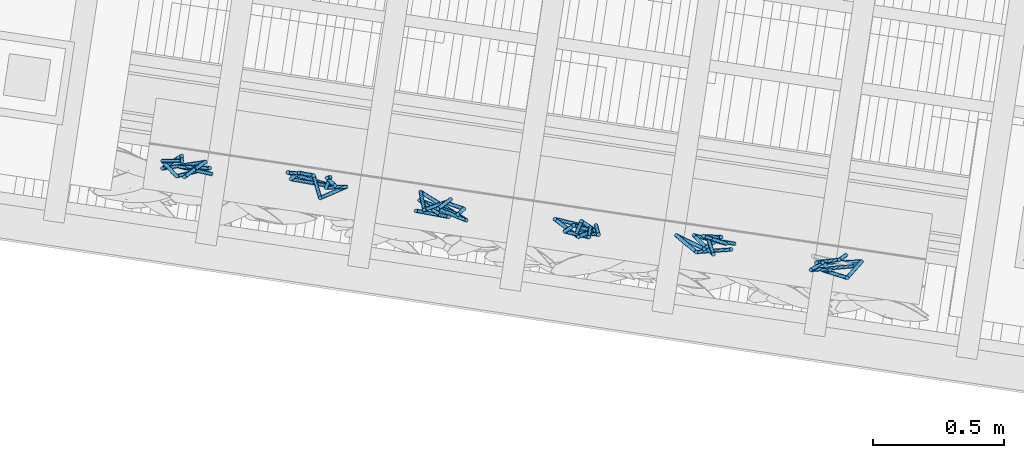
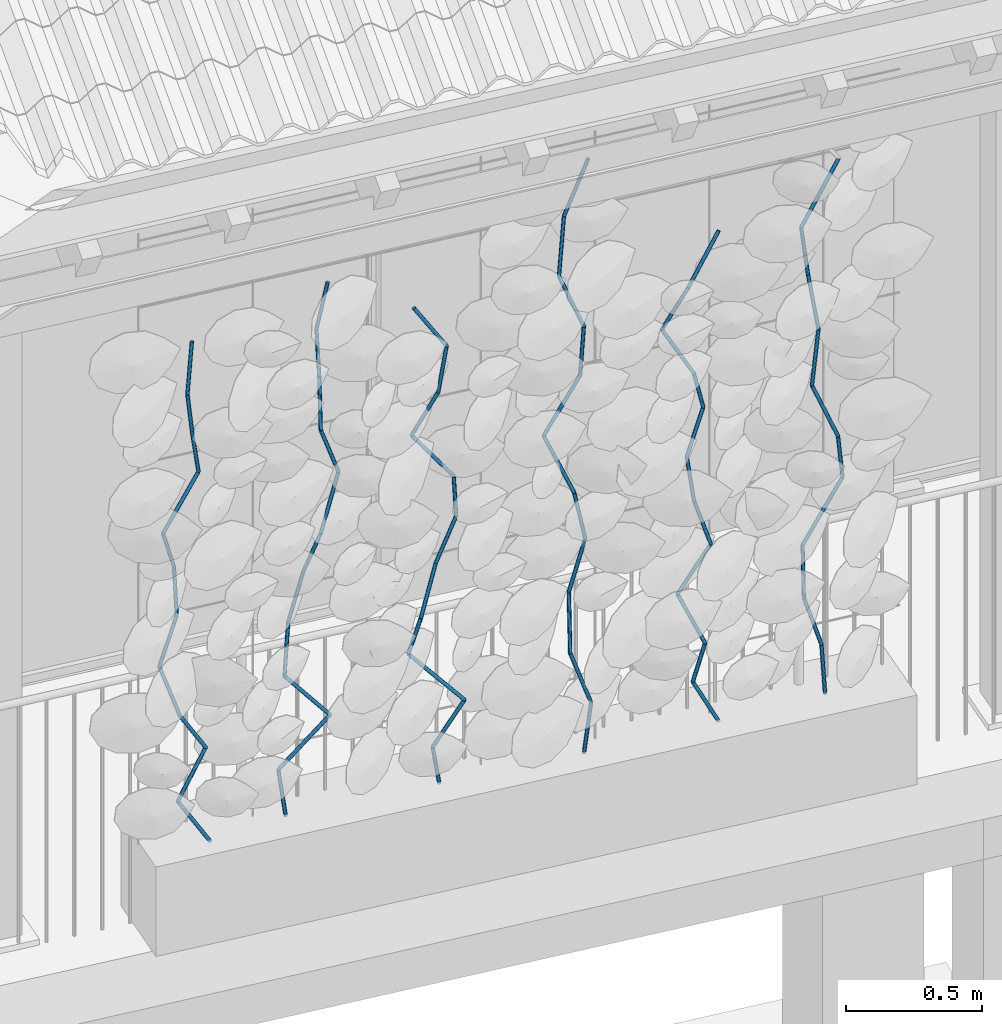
# One storey, part 110 of 131: 65 members, 1 element without a shape of its own.
"""IFC4 building model written with IfcOpenShell, lengths in metres."""

import ifcopenshell
import ifcopenshell.guid

model = None  # the IFC model being written
_history = None  # IfcOwnerHistory: only IFC2X3 demands one
_inside = {}  # id of a spatial element -> (the spatial element, [elements in it])
_under = {}  # id of a project, library or spatial element -> (it, [spatial elements below it])
_declared = {}  # id of a project -> (the project, [libraries it declares])
_typed = {}  # id of a type object -> (the type object, [elements of that type])
_made_of = {}  # id of a material, layer set ... -> (it, [elements and type objects made of it])


def new_model(schema):
    """Start an empty IFC model of exactly this schema.

    Asked for "IFC4X3", IfcOpenShell would pick the latest addendum, in which some entities
    have other attributes; the version numbers below select the first issue.
    IFC2X3 requires an IfcOwnerHistory on every rooted entity: one is made here for all.
    """
    global model, _history
    if schema == "IFC4X3":
        model = ifcopenshell.file(schema_version=(4, 3, 0, 0))
    else:
        model = ifcopenshell.file(schema=schema)
    _inside.clear()
    _under.clear()
    _declared.clear()
    _typed.clear()
    _made_of.clear()
    _history = None
    if model.schema == "IFC2X3":
        org = make("IfcOrganization", Name="unknown")
        user = make(
            "IfcPersonAndOrganization",
            ThePerson=make("IfcPerson", FamilyName="unknown"),
            TheOrganization=org,
        )
        app = make(
            "IfcApplication",
            ApplicationDeveloper=org,
            Version="unknown",
            ApplicationFullName="unknown",
            ApplicationIdentifier="unknown",
        )
        _history = make(
            "IfcOwnerHistory",
            OwningUser=user,
            OwningApplication=app,
            ChangeAction="ADDED",
            CreationDate=0,
        )
    return model


def make(cls, **values):
    """One entity of the class cls with the attributes given. An attribute that is None is left unset."""
    return model.create_entity(
        cls, **{name: value for name, value in values.items() if value is not None}
    )


def rooted(cls, **values):
    """An entity with a GlobalId (a new one), such as an element, a storey or a relation."""
    return make(cls, GlobalId=ifcopenshell.guid.new(), OwnerHistory=_history, **values)


def si_unit(unit_type, name, prefix=None):
    """IfcSIUnit, for example si_unit("LENGTHUNIT", "METRE", prefix="MILLI")."""
    return make("IfcSIUnit", UnitType=unit_type, Prefix=prefix, Name=name)


def assignment(units):
    """IfcUnitAssignment: the units of a project."""
    return None if units is None else make("IfcUnitAssignment", Units=units)


def point(xyz):
    """IfcCartesianPoint."""
    return None if xyz is None else make("IfcCartesianPoint", Coordinates=xyz)


def direction(xyz):
    """IfcDirection."""
    return None if xyz is None else make("IfcDirection", DirectionRatios=xyz)


def frame(location, z_axis=None, x_axis=None):
    """IfcAxis2Placement3D, a coordinate frame: its origin and axes. An axis left out is left unset."""
    return make(
        "IfcAxis2Placement3D",
        Location=point(location),
        Axis=direction(z_axis),
        RefDirection=direction(x_axis),
    )


def origin_with_axes():
    """The frame at (0, 0, 0) with the z axis (0, 0, 1) and the x axis (1, 0, 0) written out."""
    return frame((0.0, 0.0, 0.0), z_axis=(0.0, 0.0, 1.0), x_axis=(1.0, 0.0, 0.0))


def place(relative_to, where):
    """IfcLocalPlacement: puts the frame where relative to a parent placement (None: the world)."""
    return make(
        "IfcLocalPlacement", PlacementRelTo=relative_to, RelativePlacement=where
    )


def context(
    kind, dimensions, precision=None, world=None, true_north=None, identifier=None
):
    """IfcGeometricRepresentationContext, for example the 3D "Model" context."""
    return make(
        "IfcGeometricRepresentationContext",
        ContextIdentifier=identifier,
        ContextType=kind,
        CoordinateSpaceDimension=dimensions,
        Precision=precision,
        WorldCoordinateSystem=world,
        TrueNorth=true_north,
    )


def subcontext(parent, identifier, kind, view, scale=None):
    """IfcGeometricRepresentationSubContext, for example "Body" below "Model"."""
    return make(
        "IfcGeometricRepresentationSubContext",
        ContextIdentifier=identifier,
        ContextType=kind,
        ParentContext=parent,
        TargetScale=scale,
        TargetView=view,
    )


def project(units=None, contexts=None):
    """IfcProject with its units and contexts."""
    return rooted(
        "IfcProject",
        Name="project",
        RepresentationContexts=contexts,
        UnitsInContext=assignment(units),
    )


def spatial(cls, under=None, at=None, **own):
    """A site, building, storey or space (cls), placed at a placement, below another one or the project."""
    s = rooted(cls, ObjectPlacement=at, **own)
    if under is not None:
        _under.setdefault(under.id(), (under, []))[1].append(s)
    return s


def profile(cls, at=None, kind="AREA", **sizes):
    """A parametric profile (cls). Its sizes go by their IFC names, for example OverallWidth=200.0."""
    return make(cls, ProfileType=kind, Position=at, **sizes)


def circle(**sizes):
    """IfcCircleProfileDef."""
    return profile("IfcCircleProfileDef", **sizes)


def extrude(swept, where, along, depth):
    """IfcExtrudedAreaSolid: the profile swept, set in the frame where, extruded along a direction by depth."""
    return make(
        "IfcExtrudedAreaSolid",
        SweptArea=swept,
        Position=where,
        ExtrudedDirection=direction(along),
        Depth=depth,
    )


def shape(context_of_items, identifier, shape_type, items):
    """IfcShapeRepresentation: the items that make up one representation, for example the "Body"."""
    return make(
        "IfcShapeRepresentation",
        ContextOfItems=context_of_items,
        RepresentationIdentifier=identifier,
        RepresentationType=shape_type,
        Items=items,
    )


def material(Name=None, Category=None):
    """IfcMaterial."""
    return make("IfcMaterial", Name=Name, Category=Category)


def material_profile(
    of_material, cross_section, Name=None, Category=None, Priority=None
):
    """IfcMaterialProfile: a cross section and its material."""
    return make(
        "IfcMaterialProfile",
        Name=Name,
        Material=of_material,
        Profile=cross_section,
        Priority=Priority,
        Category=Category,
    )


def profile_set(profiles, Name=None, composite=None):
    """IfcMaterialProfileSet."""
    return make(
        "IfcMaterialProfileSet",
        Name=Name,
        MaterialProfiles=profiles,
        CompositeProfile=composite,
    )


def profile_usage(for_profile_set, cardinal=None, extent=None):
    """IfcMaterialProfileSetUsage: how a profile set lies along its element."""
    return make(
        "IfcMaterialProfileSetUsage",
        ForProfileSet=for_profile_set,
        CardinalPoint=cardinal,
        ReferenceExtent=extent,
    )


def made_of(thing, what):
    """Note that an element or type object is made of a material, layer set ...; save() writes the relation."""
    if what is not None:
        _made_of.setdefault(what.id(), (what, []))[1].append(thing)
    return thing


def type_object(cls, material=None, **own):
    """A type object (cls), such as IfcWallType, which elements share."""
    return made_of(rooted(cls, **own), material)


def element(
    cls,
    number,
    at=None,
    inside=None,
    cuts=None,
    type_object=None,
    material=None,
    context=None,
    identifier="Body",
    shape_type=None,
    held_by="IfcProductDefinitionShape",
    body=None,
    shapes=None,
    **own,
):
    """One element of the class cls, such as IfcWall. Its Tag is "e" and its number.

    at: its placement. inside: the storey or other place that contains it. cuts: it is an
    opening in that element (IfcRelVoidsElement). A single representation is given by context,
    identifier, shape_type and body (its items); several are given by shapes. held_by: the class
    of the entity that holds the representations. save() writes the other relations.
    """
    e = rooted(cls, Tag="e%d" % number, ObjectPlacement=at, **own)
    if body is not None:
        shapes = [shape(context, identifier, shape_type, body)]
    if shapes is not None:
        e.Representation = make(held_by, Representations=shapes)
    if inside is not None:
        _inside.setdefault(inside.id(), (inside, []))[1].append(e)
    if cuts is not None:
        rooted(
            "IfcRelVoidsElement", RelatingBuildingElement=cuts, RelatedOpeningElement=e
        )
    if type_object is not None:
        _typed.setdefault(type_object.id(), (type_object, []))[1].append(e)
    return made_of(e, material)


def aggregate(whole, parts):
    """IfcRelAggregates: a whole, such as a stair, and the parts it consists of."""
    return rooted("IfcRelAggregates", RelatingObject=whole, RelatedObjects=parts)


def save(model, path):
    """Write the relations noted so far, then the file.

    IfcRelAggregates (storeys below a building ...), IfcRelContainedInSpatialStructure (elements
    in a storey), IfcRelDefinesByType, IfcRelAssociatesMaterial and IfcRelDeclares: one each for
    every whole, place, type object, material and project.
    """
    for whole, parts in _under.values():
        aggregate(whole, parts)
    for where, things in _inside.values():
        rooted(
            "IfcRelContainedInSpatialStructure",
            RelatedElements=things,
            RelatingStructure=where,
        )
    for kind, things in _typed.values():
        rooted("IfcRelDefinesByType", RelatedObjects=things, RelatingType=kind)
    for what, things in _made_of.values():
        rooted("IfcRelAssociatesMaterial", RelatedObjects=things, RelatingMaterial=what)
    for by, libraries in _declared.values():
        rooted("IfcRelDeclares", RelatingContext=by, RelatedDefinitions=libraries)
    model.write(path)


model = new_model("IFC4")

# Units and contexts
model_context = context("Model", 3, precision=1e-05, world=origin_with_axes(), true_north=direction((0.0, 1.0)))
body_context = subcontext(model_context, "Body", "Model", "MODEL_VIEW")
ifc_project = project(units=[si_unit("VOLUMEUNIT", "CUBIC_METRE"), si_unit("LENGTHUNIT", "METRE"), si_unit("AREAUNIT", "SQUARE_METRE")], contexts=[model_context])

# Site, building, storey
site_placement = place(None, origin_with_axes())
site = spatial("IfcSite", under=ifc_project, at=site_placement, Name="Lares · Rua das Mercês · artigo 4771")
building_placement = place(site_placement, frame((15.0, 9.7, 15.8), z_axis=(0.0, 0.0, 1.0), x_axis=(0.989015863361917, -0.147809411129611, 0.0)))
building = spatial("IfcBuilding", under=site, at=building_placement, Name="Casa Sobreposta")
storey_placement = place(building_placement, origin_with_axes())
storey = spatial("IfcBuildingStorey", under=building, at=storey_placement, Name="00 · Habitação e estacionamento", Elevation=15.8)

# Assembly, members
assembly_placement = place(storey_placement, origin_with_axes())
assembly = element("IfcElementAssembly", 1, at=assembly_placement, inside=storey, Name="Fachada sul e pátio · estrutura e trepadeiras", ObjectType="LIVING_SHADE_TRELLIS", PredefinedType="USERDEFINED")
ifc_material = material(Name="Ramos de trepadeiras", Category="wood")
ifc_material_profile = material_profile(ifc_material, circle(Radius=0.0075))
ifc_profile_set = profile_set([ifc_material_profile], Name="D0.015")
ifc_profile_usage_1 = profile_usage(ifc_profile_set)
member_type = type_object("IfcMemberType", Name="D0.015 / vine_wood", PredefinedType="NOTDEFINED", material=ifc_profile_set)
member_1_placement = place(assembly_placement, frame((4.75122920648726, -1.69070800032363, 0.35), z_axis=(-0.518684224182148, 0.0390930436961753, 0.85407166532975), x_axis=(0.0751564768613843, 0.997171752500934, 0.0)))
member_1 = element("IfcMember", 2, at=member_1_placement, type_object=member_type, material=ifc_profile_usage_1, Name="Trepadeiras · ramo", context=body_context, shape_type="SweptSolid", body=[
    extrude(circle(Radius=0.0075), origin_with_axes(), (0.0, 0.0, 1.0), 0.239359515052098),
])
ifc_profile_usage_2 = profile_usage(ifc_profile_set)
member_2_placement = place(assembly_placement, frame((4.62707720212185, -1.68135070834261, 0.554430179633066), z_axis=(0.489334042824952, 0.051012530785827, 0.870603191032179), x_axis=(0.103686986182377, -0.994609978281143, 0.0)))
member_2 = element("IfcMember", 3, at=member_2_placement, type_object=member_type, material=ifc_profile_usage_2, Name="Trepadeiras · ramo", context=body_context, shape_type="SweptSolid", body=[
    extrude(circle(Radius=0.0075), origin_with_axes(), (0.0, 0.0, 1.0), 0.2348144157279),
])
ifc_profile_usage_3 = profile_usage(ifc_profile_set)
member_3_placement = place(assembly_placement, frame((4.74197988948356, -1.66937223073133, 0.758860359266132), z_axis=(-0.498709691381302, -0.204181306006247, 0.842376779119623), x_axis=(-0.378893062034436, 0.925440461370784, 0.0)))
member_3 = element("IfcMember", 4, at=member_3_placement, type_object=member_type, material=ifc_profile_usage_3, Name="Trepadeiras · ramo", context=body_context, shape_type="SweptSolid", body=[
    extrude(circle(Radius=0.0075), origin_with_axes(), (0.0, 0.0, 1.0), 0.242682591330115),
])
ifc_profile_usage_4 = profile_usage(ifc_profile_set)
member_4_placement = place(assembly_placement, frame((4.6209517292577, -1.71892347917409, 0.963290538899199), z_axis=(-0.281420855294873, 0.2249680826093, 0.932840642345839), x_axis=(0.624409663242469, 0.78109703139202, 0.0)))
member_4 = element("IfcMember", 5, at=member_4_placement, type_object=member_type, material=ifc_profile_usage_4, Name="Trepadeiras · ramo", context=body_context, shape_type="SweptSolid", body=[
    extrude(circle(Radius=0.0075), origin_with_axes(), (0.0, 0.0, 1.0), 0.219148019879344),
])
ifc_profile_usage_5 = profile_usage(ifc_profile_set)
member_5_placement = place(assembly_placement, frame((4.55927890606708, -1.66962216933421, 1.16772071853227), z_axis=(0.334839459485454, 0.0497730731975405, 0.940959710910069), x_axis=(0.147032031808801, -0.989131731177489, 0.0)))
member_5 = element("IfcMember", 6, at=member_5_placement, type_object=member_type, material=ifc_profile_usage_5, Name="Trepadeiras · ramo", context=body_context, shape_type="SweptSolid", body=[
    extrude(circle(Radius=0.0075), origin_with_axes(), (0.0, 0.0, 1.0), 0.217257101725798),
])
ifc_profile_usage_6 = profile_usage(ifc_profile_set)
member_6_placement = place(assembly_placement, frame((4.63202515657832, -1.65880861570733, 1.37215089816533), z_axis=(-0.0155370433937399, 0.0965979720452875, 0.995202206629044), x_axis=(0.987310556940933, 0.158801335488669, -2.20565392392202e-18)))
member_6 = element("IfcMember", 7, at=member_6_placement, type_object=member_type, material=ifc_profile_usage_6, Name="Trepadeiras · ramo", context=body_context, shape_type="SweptSolid", body=[
    extrude(circle(Radius=0.0075), origin_with_axes(), (0.0, 0.0, 1.0), 0.205415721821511),
])
ifc_profile_usage_7 = profile_usage(ifc_profile_set)
member_7_placement = place(assembly_placement, frame((4.62883360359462, -1.63896587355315, 1.5765810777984), z_axis=(-0.296042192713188, -0.262748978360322, 0.918325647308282), x_axis=(-0.663799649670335, 0.747910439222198, 0.0)))
member_7 = element("IfcMember", 8, at=member_7_placement, type_object=member_type, material=ifc_profile_usage_7, Name="Trepadeiras · ramo", context=body_context, shape_type="SweptSolid", body=[
    extrude(circle(Radius=0.0075), origin_with_axes(), (0.0, 0.0, 1.0), 0.222611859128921),
])
ifc_profile_usage_8 = profile_usage(ifc_profile_set)
member_8_placement = place(assembly_placement, frame((4.56293110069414, -1.69745691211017, 1.78101125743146), z_axis=(0.602593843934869, 0.184528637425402, 0.776421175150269), x_axis=(0.29280296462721, -0.956172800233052, 0.0)))
member_8 = element("IfcMember", 9, at=member_8_placement, type_object=member_type, material=ifc_profile_usage_8, Name="Trepadeiras · ramo", context=body_context, shape_type="SweptSolid", body=[
    extrude(circle(Radius=0.0075), origin_with_axes(), (0.0, 0.0, 1.0), 0.263298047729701),
])
ifc_profile_usage_9 = profile_usage(ifc_profile_set)
member_9_placement = place(assembly_placement, frame((4.72159288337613, -1.64887088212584, 1.98544143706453), z_axis=(-0.183474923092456, -0.172511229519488, 0.967768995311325), x_axis=(-0.685004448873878, 0.728538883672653, 0.0)))
member_9 = element("IfcMember", 10, at=member_9_placement, type_object=member_type, material=ifc_profile_usage_9, Name="Trepadeiras · ramo", context=body_context, shape_type="SweptSolid", body=[
    extrude(circle(Radius=0.0075), origin_with_axes(), (0.0, 0.0, 1.0), 0.211238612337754),
])
ifc_profile_usage_10 = profile_usage(ifc_profile_set)
member_10_placement = place(assembly_placement, frame((4.6828358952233, -1.68531191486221, 2.1898716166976), z_axis=(-0.151703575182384, -0.152460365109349, 0.976597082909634), x_axis=(-0.708863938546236, 0.705345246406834, 0.0)))
member_10 = element("IfcMember", 11, at=member_10_placement, type_object=member_type, material=ifc_profile_usage_10, Name="Trepadeiras · ramo", context=body_context, shape_type="SweptSolid", body=[
    extrude(circle(Radius=0.0075), origin_with_axes(), (0.0, 0.0, 1.0), 0.209329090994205),
])
ifc_profile_usage_11 = profile_usage(ifc_profile_set)
member_11_placement = place(assembly_placement, frame((4.6510799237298, -1.7172263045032, 2.39430179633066), z_axis=(0.152772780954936, 0.174728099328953, 0.972692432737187), x_axis=(0.75282070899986, -0.658225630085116, 0.0)))
member_11 = element("IfcMember", 12, at=member_11_placement, type_object=member_type, material=ifc_profile_usage_11, Name="Trepadeiras · ramo", context=body_context, shape_type="SweptSolid", body=[
    extrude(circle(Radius=0.0075), origin_with_axes(), (0.0, 0.0, 1.0), 0.21016939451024),
])
ifc_profile_usage_12 = profile_usage(ifc_profile_set)
member_12_placement = place(assembly_placement, frame((5.06868094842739, -1.64046507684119, 0.35), z_axis=(-0.137952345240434, -0.00819560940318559, 0.990404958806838), x_axis=(-0.0593044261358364, 0.998239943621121, 0.0)))
member_12 = element("IfcMember", 13, at=member_12_placement, type_object=member_type, material=ifc_profile_usage_12, Name="Trepadeiras · ramo", context=body_context, shape_type="SweptSolid", body=[
    extrude(circle(Radius=0.0075), origin_with_axes(), (0.0, 0.0, 1.0), 0.217030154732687),
])
ifc_profile_usage_13 = profile_usage(ifc_profile_set)
member_13_placement = place(assembly_placement, frame((5.03874112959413, -1.64224377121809, 0.564947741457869), z_axis=(0.665448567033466, -0.0975228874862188, 0.740045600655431), x_axis=(-0.145003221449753, -0.989431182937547, 0.0)))
member_13 = element("IfcMember", 14, at=member_13_placement, type_object=member_type, material=ifc_profile_usage_13, Name="Trepadeiras · ramo", context=body_context, shape_type="SweptSolid", body=[
    extrude(circle(Radius=0.0075), origin_with_axes(), (0.0, 0.0, 1.0), 0.290452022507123),
])
ifc_profile_usage_14 = profile_usage(ifc_profile_set)
member_14_placement = place(assembly_placement, frame((5.23202201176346, -1.67056949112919, 0.779895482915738), z_axis=(-0.636980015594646, 0.019434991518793, 0.770635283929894), x_axis=(0.030496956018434, 0.999534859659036, 0.0)))
member_14 = element("IfcMember", 15, at=member_14_placement, type_object=member_type, material=ifc_profile_usage_14, Name="Trepadeiras · ramo", context=body_context, shape_type="SweptSolid", body=[
    extrude(circle(Radius=0.0075), origin_with_axes(), (0.0, 0.0, 1.0), 0.278922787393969),
])
ifc_profile_usage_15 = profile_usage(ifc_profile_set)
member_15_placement = place(assembly_placement, frame((5.05435377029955, -1.66514862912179, 0.994843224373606), z_axis=(0.115761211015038, 0.129508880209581, 0.984797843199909), x_axis=(0.745570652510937, -0.66642659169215, 0.0)))
member_15 = element("IfcMember", 16, at=member_15_placement, type_object=member_type, material=ifc_profile_usage_15, Name="Trepadeiras · ramo", context=body_context, shape_type="SweptSolid", body=[
    extrude(circle(Radius=0.0075), origin_with_axes(), (0.0, 0.0, 1.0), 0.218265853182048),
])
ifc_profile_usage_16 = profile_usage(ifc_profile_set)
member_16_placement = place(assembly_placement, frame((5.07962048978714, -1.6368812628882, 1.20979096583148), z_axis=(0.263759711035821, -0.0100204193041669, 0.964536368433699), x_axis=(-0.037963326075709, -0.9992791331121, 1.58477361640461e-18)))
member_16 = element("IfcMember", 17, at=member_16_placement, type_object=member_type, material=ifc_profile_usage_16, Name="Trepadeiras · ramo", context=body_context, shape_type="SweptSolid", body=[
    extrude(circle(Radius=0.0075), origin_with_axes(), (0.0, 0.0, 1.0), 0.22285084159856),
])
ifc_profile_usage_17 = profile_usage(ifc_profile_set)
member_17_placement = place(assembly_placement, frame((5.13839956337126, -1.6391143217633, 1.42473870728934), z_axis=(0.161438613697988, -0.347744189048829, 0.923586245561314), x_axis=(-0.90702296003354, -0.42108116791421, 0.0)))
member_17 = element("IfcMember", 18, at=member_17_placement, type_object=member_type, material=ifc_profile_usage_17, Name="Trepadeiras · ramo", context=body_context, shape_type="SweptSolid", body=[
    extrude(circle(Radius=0.0075), origin_with_axes(), (0.0, 0.0, 1.0), 0.232731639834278),
])
ifc_profile_usage_18 = profile_usage(ifc_profile_set)
member_18_placement = place(assembly_placement, frame((5.17597143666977, -1.72004539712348, 1.63968644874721), z_axis=(0.381320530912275, 0.236593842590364, 0.893654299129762), x_axis=(0.527221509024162, -0.849727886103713, 0.0)))
member_18 = element("IfcMember", 19, at=member_18_placement, type_object=member_type, material=ifc_profile_usage_18, Name="Trepadeiras · ramo", context=body_context, shape_type="SweptSolid", body=[
    extrude(circle(Radius=0.0075), origin_with_axes(), (0.0, 0.0, 1.0), 0.240526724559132),
])
ifc_profile_usage_19 = profile_usage(ifc_profile_set)
member_19_placement = place(assembly_placement, frame((5.26768921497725, -1.66313825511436, 1.85463419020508), z_axis=(-0.330503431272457, -0.0630043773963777, 0.941699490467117), x_axis=(-0.187259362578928, 0.98231050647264, 0.0)))
member_19 = element("IfcMember", 20, at=member_19_placement, type_object=member_type, material=ifc_profile_usage_19, Name="Trepadeiras · ramo", context=body_context, shape_type="SweptSolid", body=[
    extrude(circle(Radius=0.0075), origin_with_axes(), (0.0, 0.0, 1.0), 0.2282551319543),
])
ifc_profile_usage_20 = profile_usage(ifc_profile_set)
member_20_placement = place(assembly_placement, frame((5.1922501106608, -1.67751932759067, 2.06958193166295), z_axis=(0.046925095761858, 0.189441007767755, 0.980770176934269), x_axis=(0.970664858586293, -0.2404365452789, 0.0)))
member_20 = element("IfcMember", 21, at=member_20_placement, type_object=member_type, material=ifc_profile_usage_20, Name="Trepadeiras · ramo", context=body_context, shape_type="SweptSolid", body=[
    extrude(circle(Radius=0.0075), origin_with_axes(), (0.0, 0.0, 1.0), 0.219162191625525),
])
ifc_profile_usage_21 = profile_usage(ifc_profile_set)
member_21_placement = place(assembly_placement, frame((5.20253431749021, -1.63600102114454, 2.28452967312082), z_axis=(-0.0592955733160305, -0.0221108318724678, 0.997995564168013), x_axis=(-0.349391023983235, 0.936977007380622, 0.0)))
member_21 = element("IfcMember", 22, at=member_21_placement, type_object=member_type, material=ifc_profile_usage_21, Name="Trepadeiras · ramo", context=body_context, shape_type="SweptSolid", body=[
    extrude(circle(Radius=0.0075), origin_with_axes(), (0.0, 0.0, 1.0), 0.215379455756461),
])
ifc_profile_usage_22 = profile_usage(ifc_profile_set)
member_22_placement = place(assembly_placement, frame((5.18976326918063, -1.64076324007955, 2.49947741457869), z_axis=(0.15933076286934, -0.109261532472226, 0.981160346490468), x_axis=(-0.565550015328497, -0.824713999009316, 0.0)))
member_22 = element("IfcMember", 23, at=member_22_placement, type_object=member_type, material=ifc_profile_usage_22, Name="Trepadeiras · ramo", context=body_context, shape_type="SweptSolid", body=[
    extrude(circle(Radius=0.0075), origin_with_axes(), (0.0, 0.0, 1.0), 0.219075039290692),
])
ifc_profile_usage_23 = profile_usage(ifc_profile_set)
member_23_placement = place(assembly_placement, frame((5.66950418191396, -1.65129466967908, 0.35), z_axis=(-0.205530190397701, -0.206844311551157, 0.956542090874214), x_axis=(-0.709356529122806, 0.704849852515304, 0.0)))
member_23 = element("IfcMember", 24, at=member_23_placement, type_object=member_type, material=ifc_profile_usage_23, Name="Trepadeiras · ramo", context=body_context, shape_type="SweptSolid", body=[
    extrude(circle(Radius=0.0075), origin_with_axes(), (0.0, 0.0, 1.0), 0.209011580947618),
])
ifc_profile_usage_24 = profile_usage(ifc_profile_set)
member_24_placement = place(assembly_placement, frame((5.62654599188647, -1.69452752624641, 0.54992837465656), z_axis=(0.494911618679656, -0.11866439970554, 0.860802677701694), x_axis=(-0.233160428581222, -0.972438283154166, 0.0)))
member_24 = element("IfcMember", 25, at=member_24_placement, type_object=member_type, material=ifc_profile_usage_24, Name="Trepadeiras · ramo", context=body_context, shape_type="SweptSolid", body=[
    extrude(circle(Radius=0.0075), origin_with_axes(), (0.0, 0.0, 1.0), 0.232258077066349),
])
ifc_profile_usage_25 = profile_usage(ifc_profile_set)
member_25_placement = place(assembly_placement, frame((5.7414932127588, -1.72208829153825, 0.749856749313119), z_axis=(-0.659269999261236, 0.284205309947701, 0.696125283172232), x_axis=(0.395873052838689, 0.91830524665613, 0.0)))
member_25 = element("IfcMember", 26, at=member_25_placement, type_object=member_type, material=ifc_profile_usage_25, Name="Trepadeiras · ramo", context=body_context, shape_type="SweptSolid", body=[
    extrude(circle(Radius=0.0075), origin_with_axes(), (0.0, 0.0, 1.0), 0.287201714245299),
])
ifc_profile_usage_26 = profile_usage(ifc_profile_set)
member_26_placement = place(assembly_placement, frame((5.55214973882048, -1.64046403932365, 0.949785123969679), z_axis=(0.112788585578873, -0.311886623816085, 0.943401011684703), x_axis=(-0.940396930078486, -0.340078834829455, -1.97379042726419e-17)))
member_26 = element("IfcMember", 27, at=member_26_placement, type_object=member_type, material=ifc_profile_usage_26, Name="Trepadeiras · ramo", context=body_context, shape_type="SweptSolid", body=[
    extrude(circle(Radius=0.0075), origin_with_axes(), (0.0, 0.0, 1.0), 0.211923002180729),
])
ifc_profile_usage_27 = profile_usage(ifc_profile_set)
member_27_placement = place(assembly_placement, frame((5.57605223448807, -1.70655998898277, 1.14971349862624), z_axis=(0.341737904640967, 0.186741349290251, 0.921055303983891), x_axis=(0.479522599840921, -0.877529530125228, 0.0)))
member_27 = element("IfcMember", 28, at=member_27_placement, type_object=member_type, material=ifc_profile_usage_27, Name="Trepadeiras · ramo", context=body_context, shape_type="SweptSolid", body=[
    extrude(circle(Radius=0.0075), origin_with_axes(), (0.0, 0.0, 1.0), 0.217064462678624),
])
ifc_profile_usage_28 = profile_usage(ifc_profile_set)
member_28_placement = place(assembly_placement, frame((5.65023138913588, -1.6660250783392, 1.3496418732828), z_axis=(0.350783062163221, -0.0651607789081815, 0.934186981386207), x_axis=(-0.182633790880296, -0.983181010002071, 0.0)))
member_28 = element("IfcMember", 29, at=member_28_placement, type_object=member_type, material=ifc_profile_usage_28, Name="Trepadeiras · ramo", context=body_context, shape_type="SweptSolid", body=[
    extrude(circle(Radius=0.0075), origin_with_axes(), (0.0, 0.0, 1.0), 0.214013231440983),
])
ifc_profile_usage_29 = profile_usage(ifc_profile_set)
member_29_placement = place(assembly_placement, frame((5.72530360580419, -1.67997034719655, 1.54957024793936), z_axis=(-0.0969763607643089, -0.121686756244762, 0.987819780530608), x_axis=(-0.782036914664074, 0.623232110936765, 0.0)))
member_29 = element("IfcMember", 30, at=member_29_placement, type_object=member_type, material=ifc_profile_usage_29, Name="Trepadeiras · ramo", context=body_context, shape_type="SweptSolid", body=[
    extrude(circle(Radius=0.0075), origin_with_axes(), (0.0, 0.0, 1.0), 0.202393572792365),
])
ifc_profile_usage_30 = profile_usage(ifc_profile_set)
member_30_placement = place(assembly_placement, frame((5.7056762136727, -1.70459896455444, 1.74949862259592), z_axis=(-0.603457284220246, 0.128578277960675, 0.786960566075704), x_axis=(0.208391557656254, 0.978045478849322, 0.0)))
member_30 = element("IfcMember", 31, at=member_30_placement, type_object=member_type, material=ifc_profile_usage_30, Name="Trepadeiras · ramo", context=body_context, shape_type="SweptSolid", body=[
    extrude(circle(Radius=0.0075), origin_with_axes(), (0.0, 0.0, 1.0), 0.254051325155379),
])
ifc_profile_usage_31 = profile_usage(ifc_profile_set)
member_31_placement = place(assembly_placement, frame((5.55236709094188, -1.67193348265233, 1.94942699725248), z_axis=(0.393051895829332, -0.199468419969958, 0.897620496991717), x_axis=(-0.452546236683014, -0.89174093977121, 0.0)))
member_31 = element("IfcMember", 32, at=member_31_placement, type_object=member_type, material=ifc_profile_usage_31, Name="Trepadeiras · ramo", context=body_context, shape_type="SweptSolid", body=[
    extrude(circle(Radius=0.0075), origin_with_axes(), (0.0, 0.0, 1.0), 0.22273151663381),
])
ifc_profile_usage_32 = profile_usage(ifc_profile_set)
member_32_placement = place(assembly_placement, frame((5.63991213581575, -1.71636138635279, 2.14935537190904), z_axis=(0.159426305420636, -0.0119359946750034, 0.987137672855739), x_axis=(-0.0746594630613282, -0.997209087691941, 0.0)))
member_32 = element("IfcMember", 33, at=member_32_placement, type_object=member_type, material=ifc_profile_usage_32, Name="Trepadeiras · ramo", context=body_context, shape_type="SweptSolid", body=[
    extrude(circle(Radius=0.0075), origin_with_axes(), (0.0, 0.0, 1.0), 0.202533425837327),
])
ifc_profile_usage_33 = profile_usage(ifc_profile_set)
member_33_placement = place(assembly_placement, frame((5.67220129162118, -1.7187788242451, 2.3492837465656), z_axis=(-0.537931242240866, 0.0189032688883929, 0.842776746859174), x_axis=(0.0351190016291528, 0.999383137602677, 0.0)))
member_33 = element("IfcMember", 34, at=member_33_placement, type_object=member_type, material=ifc_profile_usage_33, Name="Trepadeiras · ramo", context=body_context, shape_type="SweptSolid", body=[
    extrude(circle(Radius=0.0075), origin_with_axes(), (0.0, 0.0, 1.0), 0.237225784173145),
])
ifc_profile_usage_34 = profile_usage(ifc_profile_set)
member_34_placement = place(assembly_placement, frame((6.23384789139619, -1.66762222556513, 0.35), z_axis=(0.0596742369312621, -0.136129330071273, 0.988892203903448), x_axis=(-0.915866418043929, -0.401483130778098, 0.0)))
member_34 = element("IfcMember", 35, at=member_34_placement, type_object=member_type, material=ifc_profile_usage_34, Name="Trepadeiras · ramo", context=body_context, shape_type="SweptSolid", body=[
    extrude(circle(Radius=0.0075), origin_with_axes(), (0.0, 0.0, 1.0), 0.246138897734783),
])
ifc_profile_usage_35 = profile_usage(ifc_profile_set)
member_35_placement = place(assembly_placement, frame((6.24853604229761, -1.70112894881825, 0.593404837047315), z_axis=(-0.322780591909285, -0.00849818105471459, 0.946435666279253), x_axis=(-0.0263189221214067, 0.999653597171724, 0.0)))
member_35 = element("IfcMember", 36, at=member_35_placement, type_object=member_type, material=ifc_profile_usage_35, Name="Trepadeiras · ramo", context=body_context, shape_type="SweptSolid", body=[
    extrude(circle(Radius=0.0075), origin_with_axes(), (0.0, 0.0, 1.0), 0.257180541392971),
])
ifc_profile_usage_36 = profile_usage(ifc_profile_set)
member_36_placement = place(assembly_placement, frame((6.16552315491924, -1.70331451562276, 0.836809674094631), z_axis=(0.0452625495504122, 0.173128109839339, 0.983858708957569), x_axis=(0.967482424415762, -0.252938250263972, 0.0)))
member_36 = element("IfcMember", 37, at=member_36_placement, type_object=member_type, material=ifc_profile_usage_36, Name="Trepadeiras · ramo", context=body_context, shape_type="SweptSolid", body=[
    extrude(circle(Radius=0.0075), origin_with_axes(), (0.0, 0.0, 1.0), 0.247398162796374),
])
ifc_profile_usage_37 = profile_usage(ifc_profile_set)
member_37_placement = place(assembly_placement, frame((6.17672102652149, -1.6604829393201, 1.08021451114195), z_axis=(0.217194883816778, -0.103894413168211, 0.970583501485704), x_axis=(-0.431518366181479, -0.90210415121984, 0.0)))
member_37 = element("IfcMember", 38, at=member_37_placement, type_object=member_type, material=ifc_profile_usage_37, Name="Trepadeiras · ramo", context=body_context, shape_type="SweptSolid", body=[
    extrude(circle(Radius=0.0075), origin_with_axes(), (0.0, 0.0, 1.0), 0.250781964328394),
])
ifc_profile_usage_38 = profile_usage(ifc_profile_set)
member_38_placement = place(assembly_placement, frame((6.23118958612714, -1.68653778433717, 1.32361934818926), z_axis=(-0.227746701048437, -0.137682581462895, 0.963937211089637), x_axis=(-0.517351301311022, 0.855773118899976, 0.0)))
member_38 = element("IfcMember", 39, at=member_38_placement, type_object=member_type, material=ifc_profile_usage_38, Name="Trepadeiras · ramo", context=body_context, shape_type="SweptSolid", body=[
    extrude(circle(Radius=0.0075), origin_with_axes(), (0.0, 0.0, 1.0), 0.252511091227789),
])
ifc_profile_usage_39 = profile_usage(ifc_profile_set)
member_39_placement = place(assembly_placement, frame((6.17368101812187, -1.72130416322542, 1.56702418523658), z_axis=(-0.369595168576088, 0.20129408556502, 0.907127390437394), x_axis=(0.478296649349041, 0.878198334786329, 0.0)))
member_39 = element("IfcMember", 40, at=member_39_placement, type_object=member_type, material=ifc_profile_usage_39, Name="Trepadeiras · ramo", context=body_context, shape_type="SweptSolid", body=[
    extrude(circle(Radius=0.0075), origin_with_axes(), (0.0, 0.0, 1.0), 0.268324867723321),
])
ifc_profile_usage_40 = profile_usage(ifc_profile_set)
member_40_placement = place(assembly_placement, frame((6.07450944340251, -1.6672919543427, 1.81042902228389), z_axis=(0.49705681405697, -0.0433913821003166, 0.866632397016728), x_axis=(-0.0869658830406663, -0.996211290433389, 0.0)))
member_40 = element("IfcMember", 41, at=member_40_placement, type_object=member_type, material=ifc_profile_usage_40, Name="Trepadeiras · ramo", context=body_context, shape_type="SweptSolid", body=[
    extrude(circle(Radius=0.0075), origin_with_axes(), (0.0, 0.0, 1.0), 0.280862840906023),
])
ifc_profile_usage_41 = profile_usage(ifc_profile_set)
member_41_placement = place(assembly_placement, frame((6.21411423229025, -1.67947898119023, 2.05383385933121), z_axis=(-0.000663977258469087, -0.150236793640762, 0.988649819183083), x_axis=(-0.999990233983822, 0.0044194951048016, 0.0)))
member_41 = element("IfcMember", 42, at=member_41_placement, type_object=member_type, material=ifc_profile_usage_41, Name="Trepadeiras · ramo", context=body_context, shape_type="SweptSolid", body=[
    extrude(circle(Radius=0.0075), origin_with_axes(), (0.0, 0.0, 1.0), 0.246199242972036),
])
ifc_profile_usage_42 = profile_usage(ifc_profile_set)
member_42_placement = place(assembly_placement, frame((6.21395076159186, -1.71646716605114, 2.29723869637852), z_axis=(-0.363204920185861, 0.0303616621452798, 0.931214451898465), x_axis=(0.0833032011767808, 0.996524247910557, 0.0)))
member_42 = element("IfcMember", 43, at=member_42_placement, type_object=member_type, material=ifc_profile_usage_42, Name="Trepadeiras · ramo", context=body_context, shape_type="SweptSolid", body=[
    extrude(circle(Radius=0.0075), origin_with_axes(), (0.0, 0.0, 1.0), 0.261384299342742),
])
ifc_profile_usage_43 = profile_usage(ifc_profile_set)
member_43_placement = place(assembly_placement, frame((6.11901469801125, -1.70853110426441, 2.54064353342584), z_axis=(0.124656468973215, 0.11394797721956, 0.985635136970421), x_axis=(0.674692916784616, -0.738098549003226, 0.0)))
member_43 = element("IfcMember", 44, at=member_43_placement, type_object=member_type, material=ifc_profile_usage_43, Name="Trepadeiras · ramo", context=body_context, shape_type="SweptSolid", body=[
    extrude(circle(Radius=0.0075), origin_with_axes(), (0.0, 0.0, 1.0), 0.246952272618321),
])
ifc_profile_usage_44 = profile_usage(ifc_profile_set)
member_44_placement = place(assembly_placement, frame((6.14979889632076, -1.68039139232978, 2.78404837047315), z_axis=(0.348550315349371, -0.0526069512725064, 0.935812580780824), x_axis=(-0.149240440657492, -0.988800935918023, 0.0)))
member_44 = element("IfcMember", 45, at=member_44_placement, type_object=member_type, material=ifc_profile_usage_44, Name="Trepadeiras · ramo", context=body_context, shape_type="SweptSolid", body=[
    extrude(circle(Radius=0.0075), origin_with_axes(), (0.0, 0.0, 1.0), 0.26009998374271),
])
ifc_profile_usage_45 = profile_usage(ifc_profile_set)
member_45_placement = place(assembly_placement, frame((6.76755332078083, -1.65888668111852, 0.35), z_axis=(-0.448501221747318, 0.00414639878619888, 0.893772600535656), x_axis=(0.00924461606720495, 0.999957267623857, 0.0)))
member_45 = element("IfcMember", 46, at=member_45_placement, type_object=member_type, material=ifc_profile_usage_45, Name="Trepadeiras · ramo", context=body_context, shape_type="SweptSolid", body=[
    extrude(circle(Radius=0.0075), origin_with_axes(), (0.0, 0.0, 1.0), 0.225170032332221),
])
ifc_profile_usage_46 = profile_usage(ifc_profile_set)
member_46_placement = place(assembly_placement, frame((6.66656428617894, -1.65795303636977, 0.551250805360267), z_axis=(0.130163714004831, -0.25384617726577, 0.958446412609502), x_axis=(-0.889837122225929, -0.456278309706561, 0.0)))
member_46 = element("IfcMember", 47, at=member_46_placement, type_object=member_type, material=ifc_profile_usage_46, Name="Trepadeiras · ramo", context=body_context, shape_type="SweptSolid", body=[
    extrude(circle(Radius=0.0075), origin_with_axes(), (0.0, 0.0, 1.0), 0.209976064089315),
])
ifc_profile_usage_47 = profile_usage(ifc_profile_set)
member_47_placement = place(assembly_placement, frame((6.69389555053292, -1.71125465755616, 0.752501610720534), z_axis=(-0.374057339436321, 0.269779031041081, 0.887299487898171), x_axis=(0.58495820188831, 0.811063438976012, 0.0)))
member_47 = element("IfcMember", 48, at=member_47_placement, type_object=member_type, material=ifc_profile_usage_47, Name="Trepadeiras · ramo", context=body_context, shape_type="SweptSolid", body=[
    extrude(circle(Radius=0.0075), origin_with_axes(), (0.0, 0.0, 1.0), 0.226812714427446),
])
ifc_profile_usage_48 = profile_usage(ifc_profile_set)
member_48_placement = place(assembly_placement, frame((6.60905459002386, -1.65006534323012, 0.9537524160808), z_axis=(0.53027502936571, -0.0556057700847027, 0.846000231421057), x_axis=(-0.104290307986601, -0.994546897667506, 0.0)))
member_48 = element("IfcMember", 49, at=member_48_placement, type_object=member_type, material=ifc_profile_usage_48, Name="Trepadeiras · ramo", context=body_context, shape_type="SweptSolid", body=[
    extrude(circle(Radius=0.0075), origin_with_axes(), (0.0, 0.0, 1.0), 0.237885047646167),
])
ifc_profile_usage_49 = profile_usage(ifc_profile_set)
member_49_placement = place(assembly_placement, frame((6.7351990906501, -1.66329312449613, 1.15500322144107), z_axis=(-0.292391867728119, 0.0505748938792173, 0.954960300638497), x_axis=(0.170438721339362, 0.985368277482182, 0.0)))
member_49 = element("IfcMember", 50, at=member_49_placement, type_object=member_type, material=ifc_profile_usage_49, Name="Trepadeiras · ramo", context=body_context, shape_type="SweptSolid", body=[
    extrude(circle(Radius=0.0075), origin_with_axes(), (0.0, 0.0, 1.0), 0.210742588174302),
])
ifc_profile_usage_50 = profile_usage(ifc_profile_set)
member_50_placement = place(assembly_placement, frame((6.67357967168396, -1.65263484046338, 1.35625402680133), z_axis=(-0.134007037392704, 0.022996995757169, 0.990713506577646), x_axis=(0.169137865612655, 0.985592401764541, 0.0)))
member_50 = element("IfcMember", 51, at=member_50_placement, type_object=member_type, material=ifc_profile_usage_50, Name="Trepadeiras · ramo", context=body_context, shape_type="SweptSolid", body=[
    extrude(circle(Radius=0.0075), origin_with_axes(), (0.0, 0.0, 1.0), 0.203137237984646),
])
ifc_profile_usage_51 = profile_usage(ifc_profile_set)
member_51_placement = place(assembly_placement, frame((6.6463578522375, -1.64796329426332, 1.5575048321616), z_axis=(0.318926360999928, 0.0294451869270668, 0.947321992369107), x_axis=(0.0919349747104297, -0.995765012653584, 0.0)))
member_51 = element("IfcMember", 52, at=member_51_placement, type_object=member_type, material=ifc_profile_usage_51, Name="Trepadeiras · ramo", context=body_context, shape_type="SweptSolid", body=[
    extrude(circle(Radius=0.0075), origin_with_axes(), (0.0, 0.0, 1.0), 0.212441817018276),
])
ifc_profile_usage_52 = profile_usage(ifc_profile_set)
member_52_placement = place(assembly_placement, frame((6.71411114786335, -1.64170790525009, 1.75875563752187), z_axis=(-0.269313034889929, -0.249933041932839, 0.930055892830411), x_axis=(-0.680241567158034, 0.732988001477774, 0.0)))
member_52 = element("IfcMember", 53, at=member_52_placement, type_object=member_type, material=ifc_profile_usage_52, Name="Trepadeiras · ramo", context=body_context, shape_type="SweptSolid", body=[
    extrude(circle(Radius=0.0075), origin_with_axes(), (0.0, 0.0, 1.0), 0.216385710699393),
])
ifc_profile_usage_53 = profile_usage(ifc_profile_set)
member_53_placement = place(assembly_placement, frame((6.65583565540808, -1.69578984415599, 1.96000644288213), z_axis=(-0.482108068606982, 0.151816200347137, 0.862857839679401), x_axis=(0.300360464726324, 0.953825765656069, 0.0)))
member_53 = element("IfcMember", 54, at=member_53_placement, type_object=member_type, material=ifc_profile_usage_53, Name="Trepadeiras · ramo", context=body_context, shape_type="SweptSolid", body=[
    extrude(circle(Radius=0.0075), origin_with_axes(), (0.0, 0.0, 1.0), 0.233237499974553),
])
ifc_profile_usage_54 = profile_usage(ifc_profile_set)
member_54_placement = place(assembly_placement, frame((6.54338997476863, -1.66038061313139, 2.1612572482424), z_axis=(0.378364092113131, -0.229513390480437, 0.89675203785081), x_axis=(-0.518635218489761, -0.854995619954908, 0.0)))
member_54 = element("IfcMember", 55, at=member_54_placement, type_object=member_type, material=ifc_profile_usage_54, Name="Trepadeiras · ramo", context=body_context, shape_type="SweptSolid", body=[
    extrude(circle(Radius=0.0075), origin_with_axes(), (0.0, 0.0, 1.0), 0.224421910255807),
])
ifc_profile_usage_55 = profile_usage(ifc_profile_set)
member_55_placement = place(assembly_placement, frame((6.62830316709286, -1.7118884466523, 2.36250805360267), z_axis=(0.540702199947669, 0.12110116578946, 0.832451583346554), x_axis=(0.218555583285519, -0.975824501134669, 0.0)))
member_55 = element("IfcMember", 56, at=member_55_placement, type_object=member_type, material=ifc_profile_usage_55, Name="Trepadeiras · ramo", context=body_context, shape_type="SweptSolid", body=[
    extrude(circle(Radius=0.0075), origin_with_axes(), (0.0, 0.0, 1.0), 0.241756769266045),
])
ifc_profile_usage_56 = profile_usage(ifc_profile_set)
member_56_placement = place(assembly_placement, frame((7.19524020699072, -1.63921700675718, 0.35), z_axis=(-0.0932618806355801, -0.088362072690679, 0.991712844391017), x_axis=(-0.687780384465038, 0.725918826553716, 0.0)))
member_56 = element("IfcMember", 57, at=member_56_placement, type_object=member_type, material=ifc_profile_usage_56, Name="Trepadeiras · ramo", context=body_context, shape_type="SweptSolid", body=[
    extrude(circle(Radius=0.0075), origin_with_axes(), (0.0, 0.0, 1.0), 0.243011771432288),
])
ifc_profile_usage_57 = profile_usage(ifc_profile_set)
member_57_placement = place(assembly_placement, frame((7.17257647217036, -1.66069003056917, 0.590997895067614), z_axis=(-0.304604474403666, -0.0778674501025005, 0.949290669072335), x_axis=(-0.247670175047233, 0.96884440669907, 0.0)))
member_57 = element("IfcMember", 58, at=member_57_placement, type_object=member_type, material=ifc_profile_usage_57, Name="Trepadeiras · ramo", context=body_context, shape_type="SweptSolid", body=[
    extrude(circle(Radius=0.0075), origin_with_axes(), (0.0, 0.0, 1.0), 0.253871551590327),
])
ifc_profile_usage_58 = profile_usage(ifc_profile_set)
member_58_placement = place(assembly_placement, frame((7.09524606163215, -1.68045836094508, 0.831995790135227), z_axis=(-0.0270554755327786, -0.0167978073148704, 0.999492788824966), x_axis=(0.99963393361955, -0.000454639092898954, 0.0270516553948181)))
member_58 = element("IfcMember", 59, at=member_58_placement, type_object=member_type, material=ifc_profile_usage_58, Name="Trepadeiras · ramo", context=body_context, shape_type="SweptSolid", body=[
    extrude(circle(Radius=0.0075), origin_with_axes(), (0.0, 0.0, 1.0), 0.241120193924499),
])
ifc_profile_usage_59 = profile_usage(ifc_profile_set)
member_59_placement = place(assembly_placement, frame((7.08872244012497, -1.68450865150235, 1.07299368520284), z_axis=(0.57158784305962, 0.101383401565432, 0.8142534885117), x_axis=(0.174645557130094, -0.984631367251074, 0.0)))
member_59 = element("IfcMember", 60, at=member_59_placement, type_object=member_type, material=ifc_profile_usage_59, Name="Trepadeiras · ramo", context=body_context, shape_type="SweptSolid", body=[
    extrude(circle(Radius=0.0075), origin_with_axes(), (0.0, 0.0, 1.0), 0.295974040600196),
])
ifc_profile_usage_60 = profile_usage(ifc_profile_set)
member_60_placement = place(assembly_placement, frame((7.25789760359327, -1.65450179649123, 1.31399158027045), z_axis=(-0.177782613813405, -0.272952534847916, 0.945457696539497), x_axis=(-0.837933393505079, 0.545772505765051, 0.0)))
member_60 = element("IfcMember", 61, at=member_60_placement, type_object=member_type, material=ifc_profile_usage_60, Name="Trepadeiras · ramo", context=body_context, shape_type="SweptSolid", body=[
    extrude(circle(Radius=0.0075), origin_with_axes(), (0.0, 0.0, 1.0), 0.254900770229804),
])
ifc_profile_usage_61 = profile_usage(ifc_profile_set)
member_61_placement = place(assembly_placement, frame((7.21258067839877, -1.72407760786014, 1.55498947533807), z_axis=(-0.371591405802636, 0.0580037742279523, 0.92658264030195), x_axis=(0.154227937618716, 0.988035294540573, 0.0)))
member_61 = element("IfcMember", 62, at=member_61_placement, type_object=member_type, material=ifc_profile_usage_61, Name="Trepadeiras · ramo", context=body_context, shape_type="SweptSolid", body=[
    extrude(circle(Radius=0.0075), origin_with_axes(), (0.0, 0.0, 1.0), 0.260093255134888),
])
ifc_profile_usage_62 = profile_usage(ifc_profile_set)
member_62_placement = place(assembly_placement, frame((7.11593226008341, -1.70899121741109, 1.79598737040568), z_axis=(0.114788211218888, 0.0214232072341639, 0.99315895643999), x_axis=(0.183464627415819, -0.983026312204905, 0.0)))
member_62 = element("IfcMember", 63, at=member_62_placement, type_object=member_type, material=ifc_profile_usage_62, Name="Trepadeiras · ramo", context=body_context, shape_type="SweptSolid", body=[
    extrude(circle(Radius=0.0075), origin_with_axes(), (0.0, 0.0, 1.0), 0.242657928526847),
])
ifc_profile_usage_63 = profile_usage(ifc_profile_set)
member_63_placement = place(assembly_placement, frame((7.14378652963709, -1.70379270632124, 2.0369852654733), z_axis=(-0.13260385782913, 0.0969628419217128, 0.98641493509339), x_axis=(0.590254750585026, 0.807217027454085, 0.0)))
member_63 = element("IfcMember", 64, at=member_63_placement, type_object=member_type, material=ifc_profile_usage_63, Name="Trepadeiras · ramo", context=body_context, shape_type="SweptSolid", body=[
    extrude(circle(Radius=0.0075), origin_with_axes(), (0.0, 0.0, 1.0), 0.244316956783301),
])
ifc_profile_usage_64 = profile_usage(ifc_profile_set)
member_64_placement = place(assembly_placement, frame((7.11138915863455, -1.68010303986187, 2.27798316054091), z_axis=(-0.16396892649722, -0.142554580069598, 0.976110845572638), x_axis=(-0.656107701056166, 0.754667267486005, 1.55866703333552e-17)))
member_64 = element("IfcMember", 65, at=member_64_placement, type_object=member_type, material=ifc_profile_usage_64, Name="Trepadeiras · ramo", context=body_context, shape_type="SweptSolid", body=[
    extrude(circle(Radius=0.0075), origin_with_axes(), (0.0, 0.0, 1.0), 0.246896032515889),
])
ifc_profile_usage_65 = profile_usage(ifc_profile_set)
member_65_placement = place(assembly_placement, frame((7.0709058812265, -1.71529920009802, 2.51898105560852), z_axis=(0.556964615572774, 0.136439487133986, 0.819252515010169), x_axis=(0.237934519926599, -0.971281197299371, 0.0)))
member_65 = element("IfcMember", 66, at=member_65_placement, type_object=member_type, material=ifc_profile_usage_65, Name="Trepadeiras · ramo", context=body_context, shape_type="SweptSolid", body=[
    extrude(circle(Radius=0.0075), origin_with_axes(), (0.0, 0.0, 1.0), 0.294168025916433),
])
aggregate(assembly, [member_1, member_2, member_3, member_4, member_5, member_6, member_7, member_8, member_9, member_10, member_11, member_12, member_13, member_14, member_15, member_16, member_17, member_18, member_19, member_20, member_21, member_22, member_23, member_24, member_25, member_26, member_27, member_28, member_29, member_30, member_31, member_32, member_33, member_34, member_35, member_36, member_37, member_38, member_39, member_40, member_41, member_42, member_43, member_44, member_45, member_46, member_47, member_48, member_49, member_50, member_51, member_52, member_53, member_54, member_55, member_56, member_57, member_58, member_59, member_60, member_61, member_62, member_63, member_64, member_65])

save(model, "model.ifc")
